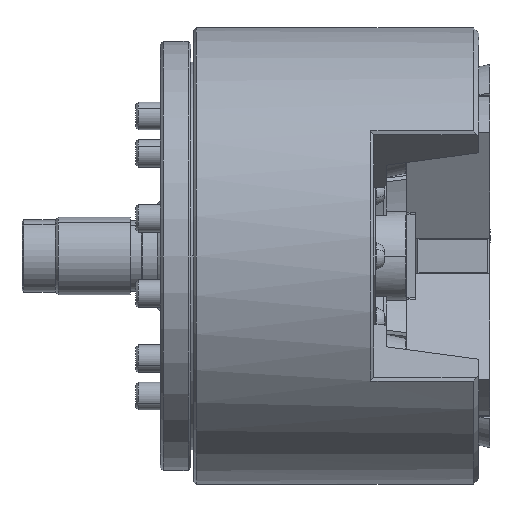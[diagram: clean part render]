
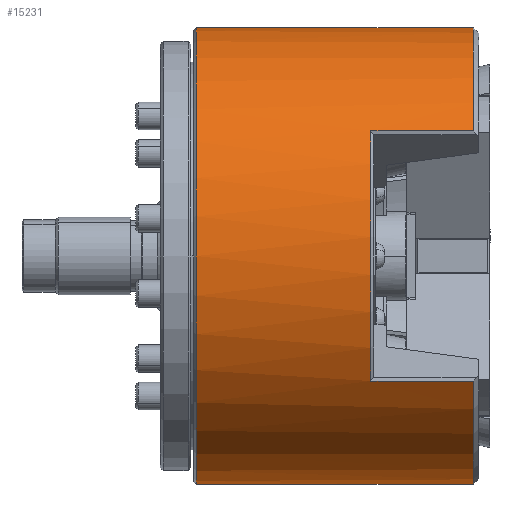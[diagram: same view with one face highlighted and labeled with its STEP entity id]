
A CAD part, front view. The second image highlights one B-rep face of the part: STEP entity #15231.
In plain terms, the highlighted cylindrical face has radius 82.5 mm (diameter 165 mm), a partial arc.
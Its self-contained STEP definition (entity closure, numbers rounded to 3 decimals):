
#521 = CARTESIAN_POINT ( 'NONE',  ( 63.843, -4.591, -82.372 ) ) ;
#897 = EDGE_CURVE ( 'NONE', #16881, #30595, #19660, .T. ) ;
#952 = CARTESIAN_POINT ( 'NONE',  ( 36.5, -4.591, 82.372 ) ) ;
#1002 = CARTESIAN_POINT ( 'NONE',  ( 36.5, 0., 0. ) ) ;
#1536 = LINE ( 'NONE', #34129, #8817 ) ;
#1695 = AXIS2_PLACEMENT_3D ( 'NONE', #10727, #30006, #13462 ) ;
#1809 = VECTOR ( 'NONE', #31592, 1000. ) ;
#1828 = CARTESIAN_POINT ( 'NONE',  ( -0.482, -4.591, -82.372 ) ) ;
#2389 = EDGE_CURVE ( 'NONE', #31886, #27407, #11853, .T. ) ;
#2868 = EDGE_CURVE ( 'NONE', #23313, #7420, #28226, .T. ) ;
#3145 = ORIENTED_EDGE ( 'NONE', *, *, #12794, .T. ) ;
#3222 = VECTOR ( 'NONE', #21466, 1000. ) ;
#3243 = DIRECTION ( 'NONE',  ( 1., 0., 0. ) ) ;
#3432 = ORIENTED_EDGE ( 'NONE', *, *, #25258, .T. ) ;
#3508 = CARTESIAN_POINT ( 'NONE',  ( 63.843, 0., 82.5 ) ) ;
#3608 = ORIENTED_EDGE ( 'NONE', *, *, #32657, .T. ) ;
#3738 = DIRECTION ( 'NONE',  ( 0., 0., -1. ) ) ;
#3872 = ORIENTED_EDGE ( 'NONE', *, *, #897, .T. ) ;
#5474 = VERTEX_POINT ( 'NONE', #9942 ) ;
#5999 = ORIENTED_EDGE ( 'NONE', *, *, #12011, .T. ) ;
#6876 = CARTESIAN_POINT ( 'NONE',  ( -0.482, 0., 0. ) ) ;
#6902 = CARTESIAN_POINT ( 'NONE',  ( -0.482, -69.041, -45.162 ) ) ;
#7420 = VERTEX_POINT ( 'NONE', #19419 ) ;
#8334 = ORIENTED_EDGE ( 'NONE', *, *, #2868, .F. ) ;
#8817 = VECTOR ( 'NONE', #14864, 1000. ) ;
#9525 = ORIENTED_EDGE ( 'NONE', *, *, #34989, .F. ) ;
#9660 = DIRECTION ( 'NONE',  ( 0., 0., -1. ) ) ;
#9788 = CARTESIAN_POINT ( 'NONE',  ( 36.5, -69.041, -45.162 ) ) ;
#9942 = CARTESIAN_POINT ( 'NONE',  ( -63.5, 0., 82.5 ) ) ;
#10263 = DIRECTION ( 'NONE',  ( 0., 0., -1. ) ) ;
#10727 = CARTESIAN_POINT ( 'NONE',  ( 36.5, 0., 0. ) ) ;
#10787 = VECTOR ( 'NONE', #16994, 1000. ) ;
#10891 = CARTESIAN_POINT ( 'NONE',  ( -0.482, 0., 82.5 ) ) ;
#11196 = ORIENTED_EDGE ( 'NONE', *, *, #17895, .T. ) ;
#11433 = DIRECTION ( 'NONE',  ( 1., 0., 0. ) ) ;
#11853 = CIRCLE ( 'NONE', #30100, 82.5 ) ;
#12011 = EDGE_CURVE ( 'NONE', #5474, #17945, #31703, .T. ) ;
#12086 = AXIS2_PLACEMENT_3D ( 'NONE', #1002, #20138, #3738 ) ;
#12333 = CARTESIAN_POINT ( 'NONE',  ( 63.843, -4.591, 82.372 ) ) ;
#12599 = DIRECTION ( 'NONE',  ( -1., 0., 0. ) ) ;
#12794 = EDGE_CURVE ( 'NONE', #34427, #27285, #16981, .T. ) ;
#13462 = DIRECTION ( 'NONE',  ( 0., 0., -1. ) ) ;
#13758 = DIRECTION ( 'NONE',  ( -1., 0., 0. ) ) ;
#13770 = ORIENTED_EDGE ( 'NONE', *, *, #17791, .F. ) ;
#13855 = AXIS2_PLACEMENT_3D ( 'NONE', #30294, #13758, #33032 ) ;
#14864 = DIRECTION ( 'NONE',  ( 1., 0., 0. ) ) ;
#15108 = ORIENTED_EDGE ( 'NONE', *, *, #24252, .T. ) ;
#15231 = ADVANCED_FACE ( 'NONE', ( #28187 ), #20787, .T. ) ;
#16327 = LINE ( 'NONE', #12333, #1809 ) ;
#16401 = ORIENTED_EDGE ( 'NONE', *, *, #2389, .T. ) ;
#16418 = AXIS2_PLACEMENT_3D ( 'NONE', #29526, #32266, #10263 ) ;
#16547 = LINE ( 'NONE', #521, #25631 ) ;
#16881 = VERTEX_POINT ( 'NONE', #9788 ) ;
#16981 = CIRCLE ( 'NONE', #13855, 82.5 ) ;
#16994 = DIRECTION ( 'NONE',  ( 1., 0., 0. ) ) ;
#17043 = AXIS2_PLACEMENT_3D ( 'NONE', #27949, #11433, #30724 ) ;
#17332 = DIRECTION ( 'NONE',  ( -1., 0., 0. ) ) ;
#17791 = EDGE_CURVE ( 'NONE', #5474, #27407, #25433, .T. ) ;
#17895 = EDGE_CURVE ( 'NONE', #23313, #31886, #16327, .T. ) ;
#17945 = VERTEX_POINT ( 'NONE', #26450 ) ;
#18164 = EDGE_LOOP ( 'NONE', ( #13770, #5999, #3432, #3145, #15108, #9525, #3872, #25981, #3608, #8334, #11196, #16401 ) ) ;
#18522 = CARTESIAN_POINT ( 'NONE',  ( -0.482, -4.591, 82.372 ) ) ;
#18705 = CARTESIAN_POINT ( 'NONE',  ( 63.843, -69.041, 45.162 ) ) ;
#19419 = CARTESIAN_POINT ( 'NONE',  ( 36.5, -69.041, 45.162 ) ) ;
#19660 = LINE ( 'NONE', #22912, #34308 ) ;
#19843 = AXIS2_PLACEMENT_3D ( 'NONE', #29121, #12599, #31871 ) ;
#20138 = DIRECTION ( 'NONE',  ( 1., 0., 0. ) ) ;
#20787 = CYLINDRICAL_SURFACE ( 'NONE', #16418, 82.5 ) ;
#21466 = DIRECTION ( 'NONE',  ( 1., 0., 0. ) ) ;
#22912 = CARTESIAN_POINT ( 'NONE',  ( 63.843, -69.041, -45.162 ) ) ;
#23313 = VERTEX_POINT ( 'NONE', #952 ) ;
#23975 = VERTEX_POINT ( 'NONE', #34830 ) ;
#24252 = EDGE_CURVE ( 'NONE', #27285, #34189, #16547, .T. ) ;
#25137 = LINE ( 'NONE', #18705, #3222 ) ;
#25258 = EDGE_CURVE ( 'NONE', #17945, #34427, #1536, .T. ) ;
#25391 = EDGE_CURVE ( 'NONE', #30595, #23975, #34573, .T. ) ;
#25433 = LINE ( 'NONE', #3508, #10787 ) ;
#25631 = VECTOR ( 'NONE', #3243, 1000. ) ;
#25981 = ORIENTED_EDGE ( 'NONE', *, *, #25391, .T. ) ;
#26121 = DIRECTION ( 'NONE',  ( -1., 0., 0. ) ) ;
#26450 = CARTESIAN_POINT ( 'NONE',  ( -63.5, 0., -82.5 ) ) ;
#27285 = VERTEX_POINT ( 'NONE', #1828 ) ;
#27407 = VERTEX_POINT ( 'NONE', #10891 ) ;
#27949 = CARTESIAN_POINT ( 'NONE',  ( -63.5, 0., 0. ) ) ;
#28187 = FACE_OUTER_BOUND ( 'NONE', #18164, .T. ) ;
#28226 = CIRCLE ( 'NONE', #12086, 82.5 ) ;
#28282 = CARTESIAN_POINT ( 'NONE',  ( 36.5, -4.591, -82.372 ) ) ;
#29121 = CARTESIAN_POINT ( 'NONE',  ( -0.482, 0., 0. ) ) ;
#29526 = CARTESIAN_POINT ( 'NONE',  ( 63.843, 0., 0. ) ) ;
#30006 = DIRECTION ( 'NONE',  ( 1., 0., 0. ) ) ;
#30100 = AXIS2_PLACEMENT_3D ( 'NONE', #6876, #26121, #9660 ) ;
#30294 = CARTESIAN_POINT ( 'NONE',  ( -0.482, 0., 0. ) ) ;
#30595 = VERTEX_POINT ( 'NONE', #6902 ) ;
#30724 = DIRECTION ( 'NONE',  ( 0., 0., -1. ) ) ;
#31592 = DIRECTION ( 'NONE',  ( -1., 0., 0. ) ) ;
#31703 = CIRCLE ( 'NONE', #17043, 82.5 ) ;
#31871 = DIRECTION ( 'NONE',  ( 0., 0., -1. ) ) ;
#31886 = VERTEX_POINT ( 'NONE', #18522 ) ;
#31933 = CIRCLE ( 'NONE', #1695, 82.5 ) ;
#32266 = DIRECTION ( 'NONE',  ( 1., 0., 0. ) ) ;
#32657 = EDGE_CURVE ( 'NONE', #23975, #7420, #25137, .T. ) ;
#33032 = DIRECTION ( 'NONE',  ( 0., 0., -1. ) ) ;
#34129 = CARTESIAN_POINT ( 'NONE',  ( 63.843, 0., -82.5 ) ) ;
#34189 = VERTEX_POINT ( 'NONE', #28282 ) ;
#34308 = VECTOR ( 'NONE', #17332, 1000. ) ;
#34427 = VERTEX_POINT ( 'NONE', #35286 ) ;
#34573 = CIRCLE ( 'NONE', #19843, 82.5 ) ;
#34830 = CARTESIAN_POINT ( 'NONE',  ( -0.482, -69.041, 45.162 ) ) ;
#34989 = EDGE_CURVE ( 'NONE', #16881, #34189, #31933, .T. ) ;
#35286 = CARTESIAN_POINT ( 'NONE',  ( -0.482, 0., -82.5 ) ) ;
